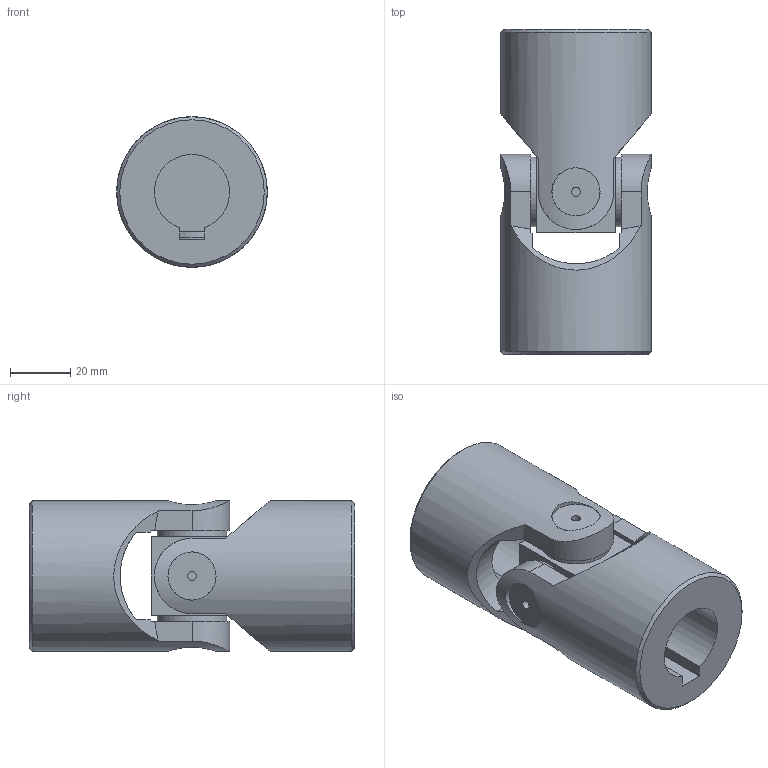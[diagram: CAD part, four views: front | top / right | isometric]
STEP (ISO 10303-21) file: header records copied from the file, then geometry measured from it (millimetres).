
FILE_DESCRIPTION(/* description */ (''),/* implementation_level */ '2;1');
FILE_NAME(/* name */ '\\SRV2016\Societa\Stefano\Disegni 3D\Dis. Clienti\0000Catalogo 3D\01Singoli G-GB\5G-1C_SG0S251C.stp',/* time_stamp */ '2021-11-10T11:07:47+01:00',/* author */ ('acquisti'),/* organization */ (''),/* preprocessor_version */ 'ST-DEVELOPER v15.6',/* originating_system */ 'Autodesk Inventor 2015',/* authorisation */ '');
FILE_SCHEMA (('AUTOMOTIVE_DESIGN { 1 0 10303 214 3 1 1 }'));
Length unit declared in the file: millimetre
Products named in the file (4): 5G SFE; 5G MOS; 5G MOC; Assieme1
Assembly tree (3 placements, depth 2):
  Assieme1
    5G SFE
    5G MOS
    5G MOC
Bounding box: 50 x 108 x 50 mm (x, y, z)
Volume: 141993 mm3; surface area: 33848.4 mm2
Topology: 3 solids, 3 shells, 75 faces, 181 edges, 122 vertices
Faces by surface type: plane 39, cylinder 22, cone 12, torus 2
Full cylindrical faces by diameter (mm): 3 x4, 16 x4, 23 x4, 25 x1, 28 x1, 50 x2
Entity records: 2584 total; most frequent: CARTESIAN_POINT 897, DIRECTION 321, ORIENTED_EDGE 318, EDGE_CURVE 159, AXIS2_PLACEMENT_3D 138, VERTEX_POINT 121, EDGE_LOOP 110, FACE_OUTER_BOUND 75
